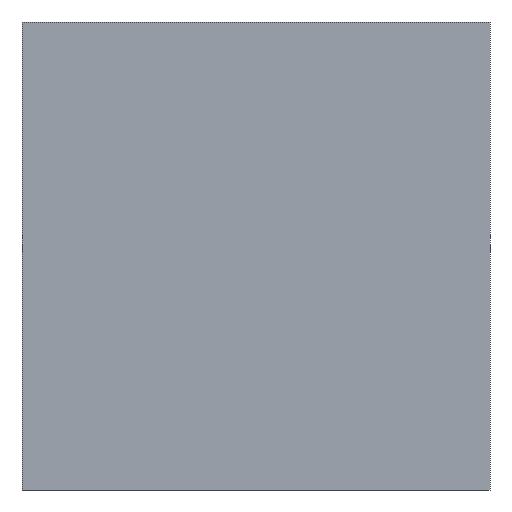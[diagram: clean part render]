
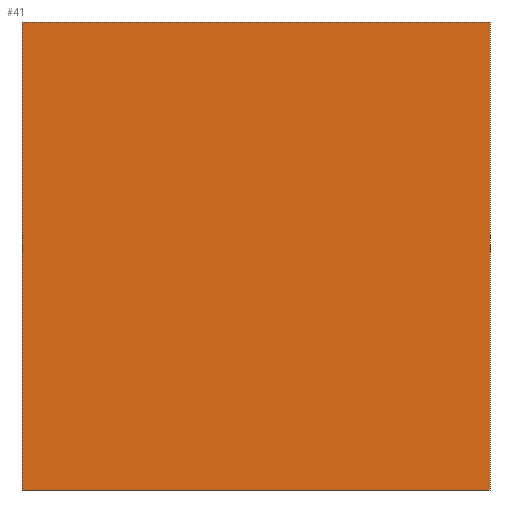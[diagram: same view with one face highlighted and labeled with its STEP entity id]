
A CAD part, left-side view. The second image highlights one B-rep face of the part: STEP entity #41.
In plain terms, the highlighted planar face has unit normal (-1, 0, 0).
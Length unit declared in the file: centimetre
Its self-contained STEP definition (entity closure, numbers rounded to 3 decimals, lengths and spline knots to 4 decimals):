
#14 = DIRECTION ( 'NONE',  ( 0., 0., -1. ) ) ;
#41 = ADVANCED_FACE ( 'NONE', ( #259 ), #133, .F. ) ;
#52 = ORIENTED_EDGE ( 'NONE', *, *, #126, .F. ) ;
#58 = LINE ( 'NONE', #84, #131 ) ;
#63 = DIRECTION ( 'NONE',  ( 0., -1., 0. ) ) ;
#66 = VERTEX_POINT ( 'NONE', #209 ) ;
#68 = ORIENTED_EDGE ( 'NONE', *, *, #110, .T. ) ;
#84 = CARTESIAN_POINT ( 'NONE',  ( 0., 0., 1000. ) ) ;
#101 = VERTEX_POINT ( 'NONE', #301 ) ;
#106 = AXIS2_PLACEMENT_3D ( 'NONE', #161, #292, #14 ) ;
#110 = EDGE_CURVE ( 'NONE', #101, #66, #372, .T. ) ;
#111 = LINE ( 'NONE', #116, #264 ) ;
#116 = CARTESIAN_POINT ( 'NONE',  ( 0., 1000., 1000. ) ) ;
#126 = EDGE_CURVE ( 'NONE', #313, #168, #58, .T. ) ;
#131 = VECTOR ( 'NONE', #398, 100. ) ;
#133 = PLANE ( 'NONE',  #106 ) ;
#149 = ORIENTED_EDGE ( 'NONE', *, *, #336, .T. ) ;
#161 = CARTESIAN_POINT ( 'NONE',  ( 0., 1000., 1000. ) ) ;
#168 = VERTEX_POINT ( 'NONE', #212 ) ;
#209 = CARTESIAN_POINT ( 'NONE',  ( 0., 1000., 0. ) ) ;
#212 = CARTESIAN_POINT ( 'NONE',  ( 0., 0., 0. ) ) ;
#225 = EDGE_LOOP ( 'NONE', ( #149, #52, #258, #68 ) ) ;
#252 = EDGE_CURVE ( 'NONE', #101, #313, #111, .T. ) ;
#258 = ORIENTED_EDGE ( 'NONE', *, *, #252, .F. ) ;
#259 = FACE_OUTER_BOUND ( 'NONE', #225, .T. ) ;
#264 = VECTOR ( 'NONE', #63, 100. ) ;
#292 = DIRECTION ( 'NONE',  ( 1., 0., 0. ) ) ;
#293 = VECTOR ( 'NONE', #307, 100. ) ;
#301 = CARTESIAN_POINT ( 'NONE',  ( 0., 1000., 1000. ) ) ;
#307 = DIRECTION ( 'NONE',  ( 0., -1., 0. ) ) ;
#313 = VERTEX_POINT ( 'NONE', #376 ) ;
#315 = LINE ( 'NONE', #371, #293 ) ;
#330 = VECTOR ( 'NONE', #402, 100. ) ;
#336 = EDGE_CURVE ( 'NONE', #66, #168, #315, .T. ) ;
#366 = CARTESIAN_POINT ( 'NONE',  ( 0., 1000., 1000. ) ) ;
#371 = CARTESIAN_POINT ( 'NONE',  ( 0., 1000., 0. ) ) ;
#372 = LINE ( 'NONE', #366, #330 ) ;
#376 = CARTESIAN_POINT ( 'NONE',  ( 0., 0., 1000. ) ) ;
#398 = DIRECTION ( 'NONE',  ( 0., 0., -1. ) ) ;
#402 = DIRECTION ( 'NONE',  ( 0., 0., -1. ) ) ;
